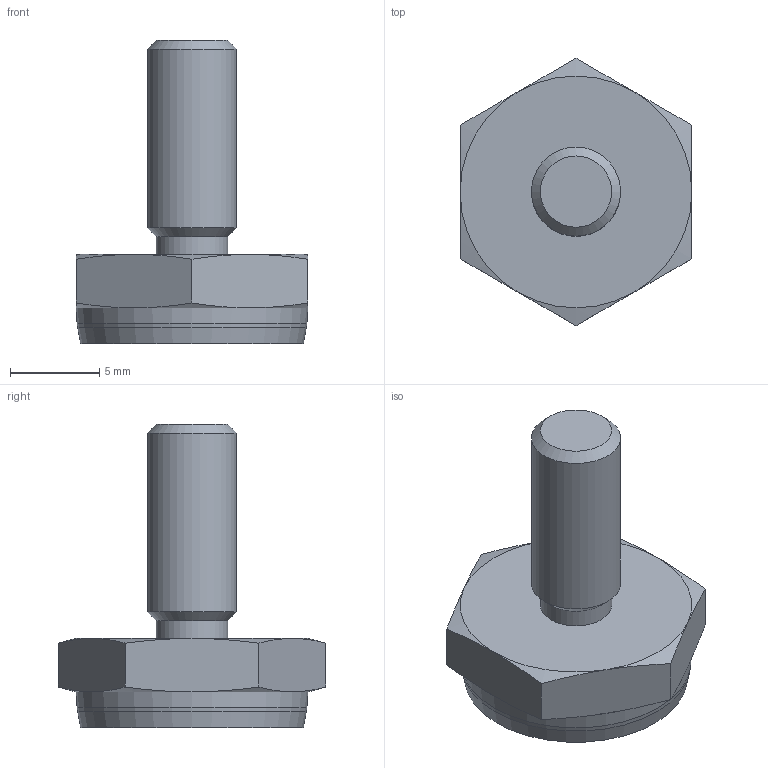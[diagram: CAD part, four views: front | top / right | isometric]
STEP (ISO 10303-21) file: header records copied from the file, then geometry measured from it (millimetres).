
FILE_DESCRIPTION(/* description */ ('Katalogmodell Elobau'),/* implementation_level */ '2;1');
FILE_NAME(/* name */ '324100_B.stp',/* time_stamp */ '2014-06-25T15:48:44+02:00',/* author */ ('Elobau GmbH & Co. KG'),/* organization */ ('Elobau GmbH & Co. KG'),/* preprocessor_version */ 'ST-DEVELOPER v15',/* originating_system */ 'SIEMENS PLM Software NX 8.5',/* authorisation */ '');
FILE_SCHEMA (('AUTOMOTIVE_DESIGN { 1 0 10303 214 3 1 1 1 }'));
Length unit declared in the file: millimetre
Products named in the file (1): 324100_B
Bounding box: 13 x 15.01 x 17 mm (x, y, z)
Volume: 919.6 mm3; surface area: 681.3 mm2
Topology: 1 solids, 1 shells, 28 faces, 58 edges, 33 vertices
Faces by surface type: cone 16, plane 9, cylinder 2, torus 1
Full cylindrical faces by diameter (mm): 4 x1, 5 x1
Entity records: 745 total; most frequent: CARTESIAN_POINT 201, DIRECTION 102, ORIENTED_EDGE 100, EDGE_CURVE 50, AXIS2_PLACEMENT_3D 49, EDGE_LOOP 36, VERTEX_POINT 32, ADVANCED_FACE 28
